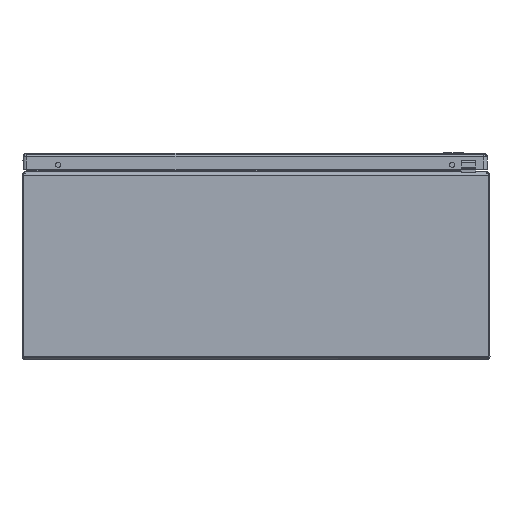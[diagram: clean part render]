
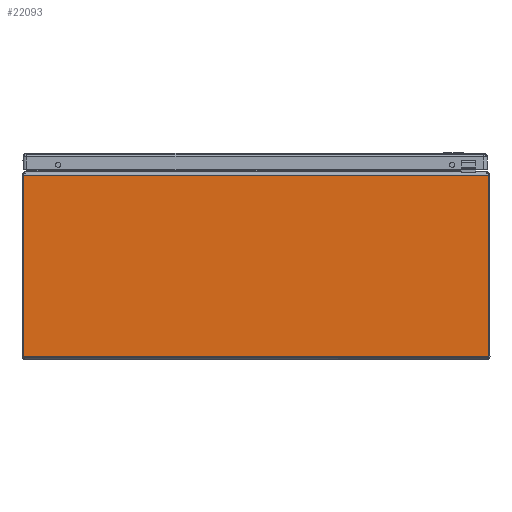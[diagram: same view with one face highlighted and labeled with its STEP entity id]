
A CAD part, front view. The second image highlights one B-rep face of the part: STEP entity #22093.
In plain terms, the highlighted planar face has unit normal (0, -1, 0).
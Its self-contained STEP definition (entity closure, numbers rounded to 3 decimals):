
#1917 = EDGE_CURVE ( 'NONE', #14018, #16712, #37042, .T. ) ;
#1960 = EDGE_CURVE ( 'NONE', #14224, #14227, #37097, .T. ) ;
#1970 = EDGE_CURVE ( 'NONE', #14018, #14227, #37125, .T. ) ;
#1974 = EDGE_CURVE ( 'NONE', #16712, #14224, #37133, .T. ) ;
#9502 = EDGE_LOOP ( 'NONE', ( #38441, #38440, #38439, #38438 ) ) ;
#13229 = DIRECTION ( 'NONE',  ( 0., 0., -1. ) ) ;
#13237 = CARTESIAN_POINT ( 'NONE',  ( -9.938, -15., 7.855 ) ) ;
#14018 = VERTEX_POINT ( 'NONE', #27952 ) ;
#14224 = VERTEX_POINT ( 'NONE', #27693 ) ;
#14227 = VERTEX_POINT ( 'NONE', #27690 ) ;
#16712 = VERTEX_POINT ( 'NONE', #20013 ) ;
#18160 = DIRECTION ( 'NONE',  ( 0., 0., -1. ) ) ;
#18161 = DIRECTION ( 'NONE',  ( 0., -1., 0. ) ) ;
#18164 = PLANE ( 'NONE',  #43172 ) ;
#18166 = CARTESIAN_POINT ( 'NONE',  ( -160., -15., 7.855 ) ) ;
#20013 = CARTESIAN_POINT ( 'NONE',  ( -9.938, -15., 0.106 ) ) ;
#20570 = DIRECTION ( 'NONE',  ( 1., 0., 0. ) ) ;
#20576 = CARTESIAN_POINT ( 'NONE',  ( -160., -15., 0.106 ) ) ;
#20620 = DIRECTION ( 'NONE',  ( 1., 0., 0. ) ) ;
#20624 = CARTESIAN_POINT ( 'NONE',  ( -160., -15., 7.855 ) ) ;
#20729 = DIRECTION ( 'NONE',  ( 0., 0., 1. ) ) ;
#20732 = CARTESIAN_POINT ( 'NONE',  ( 9.938, -15., 7.855 ) ) ;
#22093 = ADVANCED_FACE ( 'NONE', ( #39386 ), #18164, .T. ) ;
#27690 = CARTESIAN_POINT ( 'NONE',  ( 9.938, -15., 7.855 ) ) ;
#27693 = CARTESIAN_POINT ( 'NONE',  ( 9.938, -15., 0.106 ) ) ;
#27952 = CARTESIAN_POINT ( 'NONE',  ( -9.938, -15., 7.855 ) ) ;
#37036 = VECTOR ( 'NONE', #13229, 39.37 ) ;
#37042 = LINE ( 'NONE', #13237, #37036 ) ;
#37097 = LINE ( 'NONE', #20732, #37107 ) ;
#37107 = VECTOR ( 'NONE', #20729, 39.37 ) ;
#37125 = LINE ( 'NONE', #20624, #37126 ) ;
#37126 = VECTOR ( 'NONE', #20620, 39.37 ) ;
#37133 = LINE ( 'NONE', #20576, #37134 ) ;
#37134 = VECTOR ( 'NONE', #20570, 39.37 ) ;
#38438 = ORIENTED_EDGE ( 'NONE', *, *, #1974, .T. ) ;
#38439 = ORIENTED_EDGE ( 'NONE', *, *, #1917, .T. ) ;
#38440 = ORIENTED_EDGE ( 'NONE', *, *, #1970, .F. ) ;
#38441 = ORIENTED_EDGE ( 'NONE', *, *, #1960, .T. ) ;
#39386 = FACE_OUTER_BOUND ( 'NONE', #9502, .T. ) ;
#43172 = AXIS2_PLACEMENT_3D ( 'NONE', #18166, #18161, #18160 ) ;
